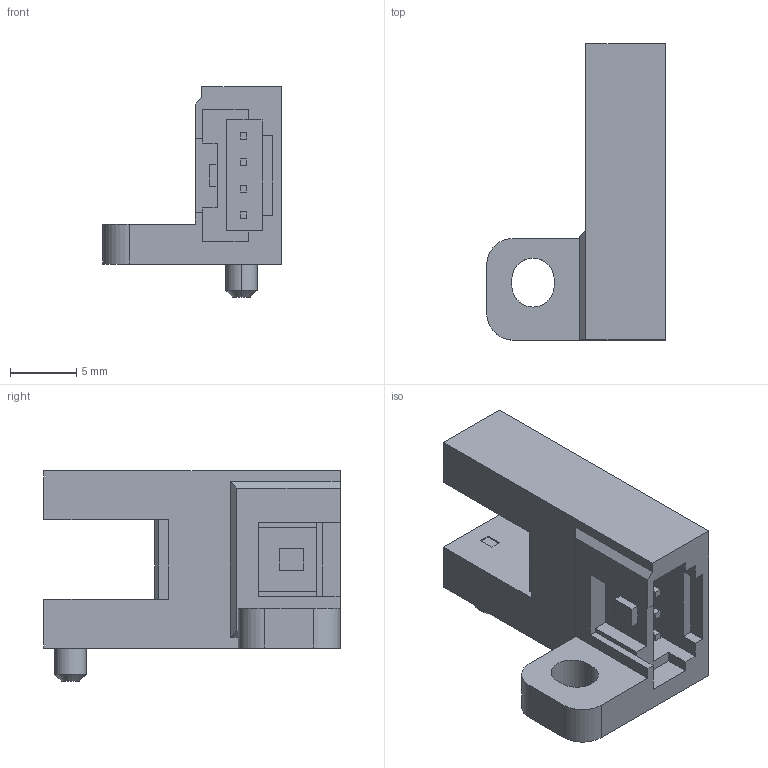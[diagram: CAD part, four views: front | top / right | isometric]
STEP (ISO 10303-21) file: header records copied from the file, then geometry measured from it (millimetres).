
FILE_DESCRIPTION (( 'STEP AP203' ), '1' );
FILE_NAME ('pm-f65.STEP', '2015-08-07T07:37:17', ( '' ), ( '' ), 'SwSTEP 2.0', 'SolidWorks 2010', '' );
FILE_SCHEMA (( 'CONFIG_CONTROL_DESIGN' ));
Length unit declared in the file: millimetre
Products named in the file (1): pm-f65
Bounding box: 13.5 x 22.4 x 15.9 mm (x, y, z)
Volume: 1466.6 mm3; surface area: 1386.4 mm2
Topology: 1 solids, 1 shells, 109 faces, 287 edges, 190 vertices
Faces by surface type: plane 101, cylinder 6, cone 2
Entity records: 3384 total; most frequent: CARTESIAN_POINT 587, ORIENTED_EDGE 574, DIRECTION 521, EDGE_CURVE 287, LINE 273, VECTOR 273, VERTEX_POINT 190, AXIS2_PLACEMENT_3D 124
